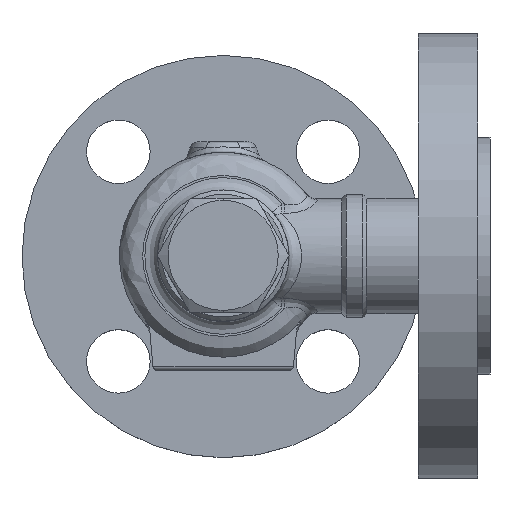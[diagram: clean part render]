
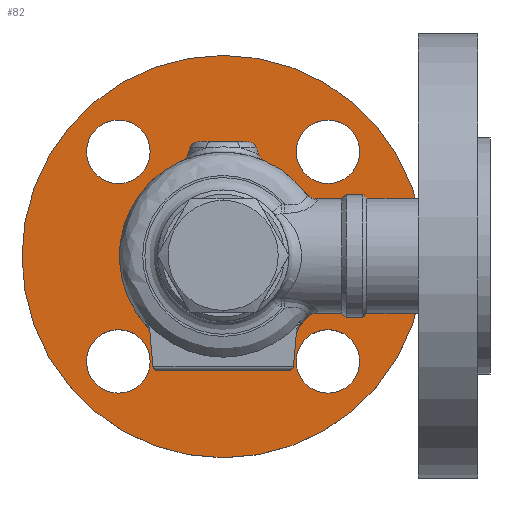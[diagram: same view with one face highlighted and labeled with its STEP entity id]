
A CAD part, top view. The second image highlights one B-rep face of the part: STEP entity #82.
In plain terms, the highlighted planar face has unit normal (0, 0, 1) as drawn and (0, 1, 0) by its records, which use the part's own axes.
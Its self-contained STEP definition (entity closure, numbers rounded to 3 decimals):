
#82=ADVANCED_FACE('',(#292,#293,#294,#295,#296,#297),#291,.T.);
#291=PLANE('',#1789);
#292=FACE_OUTER_BOUND('',#1790,.T.);
#293=FACE_BOUND('',#1791,.T.);
#294=FACE_BOUND('',#1792,.T.);
#295=FACE_BOUND('',#1793,.T.);
#296=FACE_BOUND('',#1794,.T.);
#297=FACE_BOUND('',#1795,.T.);
#1786=CARTESIAN_POINT('',(-92.272,-80.,-105.));
#1787=DIRECTION('',(0.,1.,0.));
#1788=DIRECTION('',(0.,0.,1.));
#1789=AXIS2_PLACEMENT_3D('',#1786,#1787,#1788);
#1790=EDGE_LOOP('',(#3574,#3575));
#1791=EDGE_LOOP('',(#3576,#3577,#3578));
#1792=EDGE_LOOP('',(#3579,#3580,#3581));
#1793=EDGE_LOOP('',(#3582,#3583));
#1794=EDGE_LOOP('',(#3584,#3585));
#1795=EDGE_LOOP('',(#3586,#3587));
#3574=ORIENTED_EDGE('',*,*,#4256,.T.);
#3575=ORIENTED_EDGE('',*,*,#4257,.T.);
#3576=ORIENTED_EDGE('',*,*,#4258,.F.);
#3577=ORIENTED_EDGE('',*,*,#4259,.F.);
#3578=ORIENTED_EDGE('',*,*,#4260,.F.);
#3579=ORIENTED_EDGE('',*,*,#4261,.F.);
#3580=ORIENTED_EDGE('',*,*,#4262,.F.);
#3581=ORIENTED_EDGE('',*,*,#4263,.F.);
#3582=ORIENTED_EDGE('',*,*,#4264,.F.);
#3583=ORIENTED_EDGE('',*,*,#4265,.F.);
#3584=ORIENTED_EDGE('',*,*,#4266,.F.);
#3585=ORIENTED_EDGE('',*,*,#4267,.F.);
#3586=ORIENTED_EDGE('',*,*,#4268,.F.);
#3587=ORIENTED_EDGE('',*,*,#4269,.F.);
#4256=EDGE_CURVE('',#4860,#4861,#4862,.T.);
#4257=EDGE_CURVE('',#4861,#4860,#4868,.T.);
#4258=EDGE_CURVE('',#4874,#4875,#4876,.T.);
#4259=EDGE_CURVE('',#4882,#4874,#4883,.T.);
#4260=EDGE_CURVE('',#4875,#4882,#4889,.T.);
#4261=EDGE_CURVE('',#4895,#4896,#4897,.T.);
#4262=EDGE_CURVE('',#4903,#4895,#4904,.T.);
#4263=EDGE_CURVE('',#4896,#4903,#4910,.T.);
#4264=EDGE_CURVE('',#4916,#4917,#4918,.T.);
#4265=EDGE_CURVE('',#4917,#4916,#4924,.T.);
#4266=EDGE_CURVE('',#4930,#4931,#4932,.T.);
#4267=EDGE_CURVE('',#4931,#4930,#4938,.T.);
#4268=EDGE_CURVE('',#4944,#4945,#4946,.T.);
#4269=EDGE_CURVE('',#4945,#4944,#4952,.T.);
#4860=VERTEX_POINT('',#7126);
#4861=VERTEX_POINT('',#7127);
#4862=CIRCLE('',#7131,47.5);
#4868=CIRCLE('',#7135,47.5);
#4874=VERTEX_POINT('',#7136);
#4875=VERTEX_POINT('',#7137);
#4876=CIRCLE('',#7141,7.5);
#4882=VERTEX_POINT('',#7142);
#4883=CIRCLE('',#7146,7.5);
#4889=CIRCLE('',#7150,7.5);
#4895=VERTEX_POINT('',#7151);
#4896=VERTEX_POINT('',#7152);
#4897=CIRCLE('',#7156,7.5);
#4903=VERTEX_POINT('',#7157);
#4904=CIRCLE('',#7161,7.5);
#4910=CIRCLE('',#7165,7.5);
#4916=VERTEX_POINT('',#7166);
#4917=VERTEX_POINT('',#7167);
#4918=CIRCLE('',#7171,7.5);
#4924=CIRCLE('',#7175,7.5);
#4930=VERTEX_POINT('',#7176);
#4931=VERTEX_POINT('',#7177);
#4932=CIRCLE('',#7181,7.5);
#4938=CIRCLE('',#7185,7.5);
#4944=VERTEX_POINT('',#7186);
#4945=VERTEX_POINT('',#7187);
#4946=CIRCLE('',#7191,10.85);
#4952=CIRCLE('',#7195,10.85);
#7126=CARTESIAN_POINT('',(0.,-80.,47.5));
#7127=CARTESIAN_POINT('',(0.,-80.,-47.5));
#7128=CARTESIAN_POINT('',(0.,-80.,0.));
#7129=DIRECTION('',(0.,1.,0.));
#7130=DIRECTION('',(0.,0.,1.));
#7131=AXIS2_PLACEMENT_3D('',#7128,#7129,#7130);
#7132=CARTESIAN_POINT('',(0.,-80.,0.));
#7133=DIRECTION('',(0.,1.,0.));
#7134=DIRECTION('',(0.,0.,1.));
#7135=AXIS2_PLACEMENT_3D('',#7132,#7133,#7134);
#7136=CARTESIAN_POINT('',(17.249,-80.,-24.749));
#7137=CARTESIAN_POINT('',(24.749,-80.,-17.249));
#7138=CARTESIAN_POINT('',(24.749,-80.,-24.749));
#7139=DIRECTION('',(0.,1.,0.));
#7140=DIRECTION('',(0.,0.,1.));
#7141=AXIS2_PLACEMENT_3D('',#7138,#7139,#7140);
#7142=CARTESIAN_POINT('',(32.249,-80.,-24.75));
#7143=CARTESIAN_POINT('',(24.749,-80.,-24.749));
#7144=DIRECTION('',(0.,1.,0.));
#7145=DIRECTION('',(0.,0.,1.));
#7146=AXIS2_PLACEMENT_3D('',#7143,#7144,#7145);
#7147=CARTESIAN_POINT('',(24.749,-80.,-24.749));
#7148=DIRECTION('',(0.,1.,0.));
#7149=DIRECTION('',(0.,0.,1.));
#7150=AXIS2_PLACEMENT_3D('',#7147,#7148,#7149);
#7151=CARTESIAN_POINT('',(17.249,-80.,24.749));
#7152=CARTESIAN_POINT('',(24.749,-80.,32.249));
#7153=CARTESIAN_POINT('',(24.749,-80.,24.749));
#7154=DIRECTION('',(0.,1.,0.));
#7155=DIRECTION('',(0.,0.,1.));
#7156=AXIS2_PLACEMENT_3D('',#7153,#7154,#7155);
#7157=CARTESIAN_POINT('',(32.249,-80.,24.748));
#7158=CARTESIAN_POINT('',(24.749,-80.,24.749));
#7159=DIRECTION('',(0.,1.,0.));
#7160=DIRECTION('',(0.,0.,1.));
#7161=AXIS2_PLACEMENT_3D('',#7158,#7159,#7160);
#7162=CARTESIAN_POINT('',(24.749,-80.,24.749));
#7163=DIRECTION('',(0.,1.,0.));
#7164=DIRECTION('',(0.,0.,1.));
#7165=AXIS2_PLACEMENT_3D('',#7162,#7163,#7164);
#7166=CARTESIAN_POINT('',(-24.749,-80.,17.249));
#7167=CARTESIAN_POINT('',(-24.749,-80.,32.249));
#7168=CARTESIAN_POINT('',(-24.749,-80.,24.749));
#7169=DIRECTION('',(0.,1.,0.));
#7170=DIRECTION('',(0.,0.,1.));
#7171=AXIS2_PLACEMENT_3D('',#7168,#7169,#7170);
#7172=CARTESIAN_POINT('',(-24.749,-80.,24.749));
#7173=DIRECTION('',(0.,1.,0.));
#7174=DIRECTION('',(0.,0.,1.));
#7175=AXIS2_PLACEMENT_3D('',#7172,#7173,#7174);
#7176=CARTESIAN_POINT('',(-24.749,-80.,-32.249));
#7177=CARTESIAN_POINT('',(-24.749,-80.,-17.249));
#7178=CARTESIAN_POINT('',(-24.749,-80.,-24.749));
#7179=DIRECTION('',(0.,1.,0.));
#7180=DIRECTION('',(0.,0.,1.));
#7181=AXIS2_PLACEMENT_3D('',#7178,#7179,#7180);
#7182=CARTESIAN_POINT('',(-24.749,-80.,-24.749));
#7183=DIRECTION('',(0.,1.,0.));
#7184=DIRECTION('',(0.,0.,1.));
#7185=AXIS2_PLACEMENT_3D('',#7182,#7183,#7184);
#7186=CARTESIAN_POINT('',(0.,-80.,-10.85));
#7187=CARTESIAN_POINT('',(0.,-80.,10.85));
#7188=CARTESIAN_POINT('',(0.,-80.,0.));
#7189=DIRECTION('',(0.,1.,0.));
#7190=DIRECTION('',(0.,0.,1.));
#7191=AXIS2_PLACEMENT_3D('',#7188,#7189,#7190);
#7192=CARTESIAN_POINT('',(0.,-80.,0.));
#7193=DIRECTION('',(0.,1.,0.));
#7194=DIRECTION('',(0.,0.,1.));
#7195=AXIS2_PLACEMENT_3D('',#7192,#7193,#7194);
